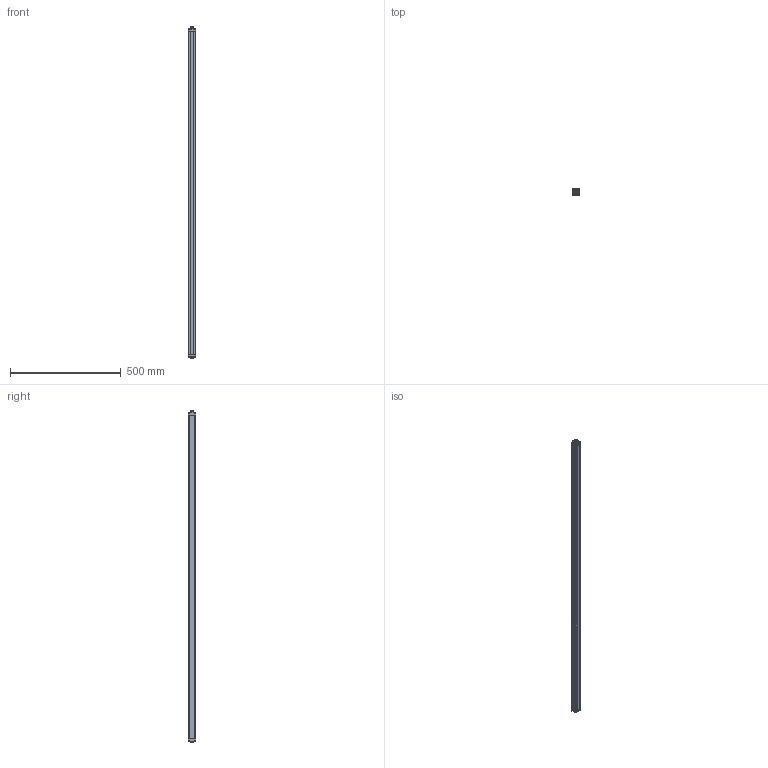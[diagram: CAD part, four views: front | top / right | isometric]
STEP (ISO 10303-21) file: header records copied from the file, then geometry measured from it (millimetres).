
FILE_DESCRIPTION(/* description */ (''),/* implementation_level */ '2;1');
FILE_NAME(/* name */ 'TYG20-72.stp',/* time_stamp */ '2024-11-14T13:19:38+08:00',/* author */ (''),/* organization */ (''),/* preprocessor_version */ 'ST-DEVELOPER v16',/* originating_system */ 'SIEMENS PLM Software NX 11.0',/* authorisation */ '');
FILE_SCHEMA (('AUTOMOTIVE_DESIGN { 1 0 10303 214 3 1 1 1 }'));
Length unit declared in the file: millimetre
Products named in the file (5): YAKELI8080; B-08238181; K-08238282; 202303318383; TYG20-70_stp
Assembly tree (4 placements, depth 2):
  TYG20-70_stp
    202303318383
    K-08238282
    B-08238181
    YAKELI8080
Bounding box: 31.87 x 33.07 x 1498 mm (x, y, z)
Volume: 498008.1 mm3; surface area: 520130.6 mm2
Topology: 4 solids, 4 shells, 629 faces, 1887 edges, 1256 vertices
Faces by surface type: plane 346, cylinder 203, cone 36, sphere 16, torus 16, extrusion 8, bspline 4
Entity records: 21926 total; most frequent: CARTESIAN_POINT 4524, ORIENTED_EDGE 3758, DIRECTION 3553, EDGE_CURVE 1879, VERTEX_POINT 1256, AXIS2_PLACEMENT_3D 1188, VECTOR 1177, LINE 1169
